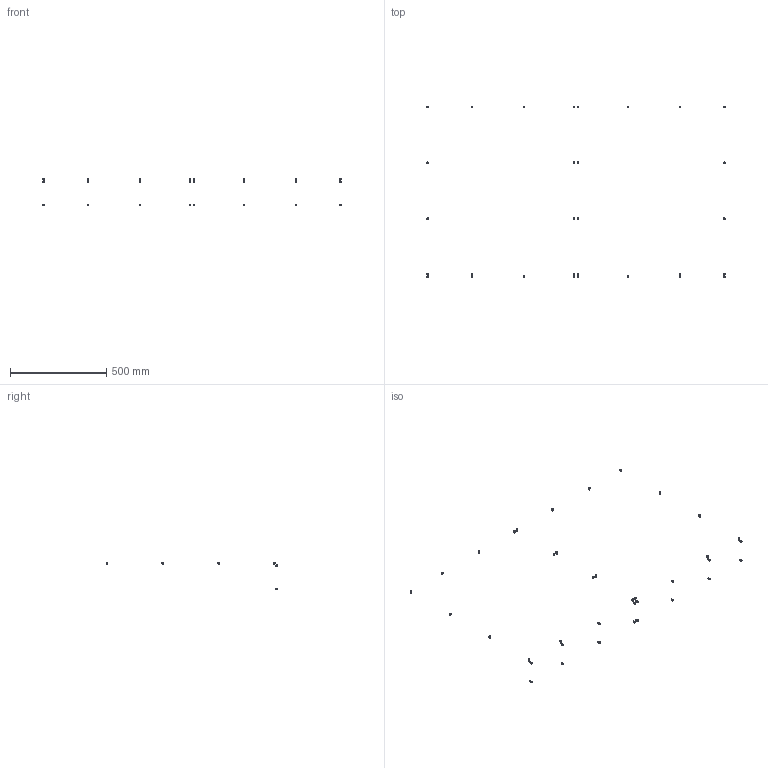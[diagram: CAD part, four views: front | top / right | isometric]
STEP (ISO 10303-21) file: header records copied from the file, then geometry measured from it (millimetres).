
FILE_DESCRIPTION(/* description */ (''),/* implementation_level */ '2;1');
FILE_NAME(/* name */ 'DOOR-P~2',/* time_stamp */ '2014-02-14T19:50:48+01:00',/* author */ (''),/* organization */ (''),/* preprocessor_version */ 'ST-DEVELOPER v14',/* originating_system */ '',/* authorisation */ '');
FILE_SCHEMA (('AUTOMOTIVE_DESIGN'));
Length unit declared in the file: millimetre
Products named in the file (2): Document; screw DIN912-like, M5x08
Assembly tree (19 placements, depth 2):
  Document
    screw DIN912-like, M5x08  x19
Bounding box: 1552.5 x 892.24 x 142.24 mm (x, y, z)
Volume: 15168.1 mm3; surface area: 15008.6 mm2
Topology: 38 solids, 38 shells, 950 faces, 2128 edges, 1254 vertices
Faces by surface type: plane 570, bspline 380
Entity records: 27313 total; most frequent: CARTESIAN_POINT 12582, B_SPLINE_CURVE_WITH_KNOTS 2520, ORIENTED_EDGE 2160, PCURVE 2160, DEFINITIONAL_REPRESENTATION 2160, SURFACE_CURVE 1080, EDGE_CURVE 1080, VERTEX_POINT 660
